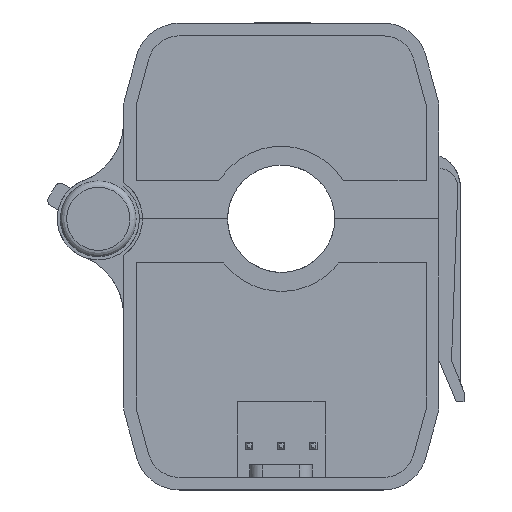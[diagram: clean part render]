
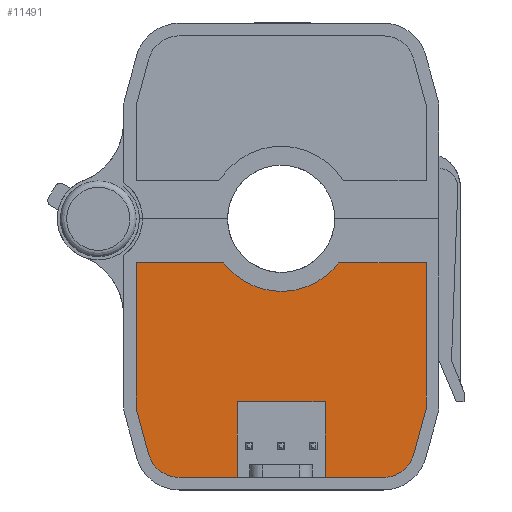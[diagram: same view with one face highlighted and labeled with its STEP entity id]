
A CAD part, front view. The second image highlights one B-rep face of the part: STEP entity #11491.
In plain terms, the highlighted free-form (B-spline) face has degree [1, 1] with [2, 2] control points.
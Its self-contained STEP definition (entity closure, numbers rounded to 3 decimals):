
#10874=CARTESIAN_POINT('',(-11.5,-11.,-15.));
#10875=VERTEX_POINT('',#10874);
#10881=CARTESIAN_POINT('',(-10.502,-11.,-18.658));
#10882=VERTEX_POINT('',#10881);
#10883=CARTESIAN_POINT('',(-10.502,-11.,-18.658));
#10884=CARTESIAN_POINT('',(-11.5,-11.,-15.));
#10885=B_SPLINE_CURVE_WITH_KNOTS('',1,(#10883,#10884),.POLYLINE_FORM.,.F.,.U.,(2,2),(0.335,1.),.UNSPECIFIED.);
#10886=EDGE_CURVE('',#10882,#10875,#10885,.T.);
#10964=CARTESIAN_POINT('',(-8.091,-11.,-20.5));
#10965=VERTEX_POINT('',#10964);
#10973=CARTESIAN_POINT('',(-10.502,-11.,-18.658));
#10974=CARTESIAN_POINT('',(-10.,-11.,-20.5));
#10975=CARTESIAN_POINT('',(-8.091,-11.,-20.5));
#10976=(BOUNDED_CURVE()B_SPLINE_CURVE(2,(#10973,#10974,#10975),.UNSPECIFIED.,.F.,.U.)B_SPLINE_CURVE_WITH_KNOTS((3,3),(0.,1.),.UNSPECIFIED.)CURVE()GEOMETRIC_REPRESENTATION_ITEM()RATIONAL_B_SPLINE_CURVE((1.,0.795,1.))REPRESENTATION_ITEM(''));
#10977=EDGE_CURVE('',#10882,#10965,#10976,.T.);
#11044=CARTESIAN_POINT('',(8.091,-11.,-20.5));
#11045=VERTEX_POINT('',#11044);
#11051=CARTESIAN_POINT('',(10.502,-11.,-18.658));
#11052=VERTEX_POINT('',#11051);
#11053=CARTESIAN_POINT('',(10.502,-11.,-18.658));
#11054=CARTESIAN_POINT('',(10.,-11.,-20.5));
#11055=CARTESIAN_POINT('',(8.091,-11.,-20.5));
#11056=(BOUNDED_CURVE()B_SPLINE_CURVE(2,(#11053,#11054,#11055),.UNSPECIFIED.,.F.,.U.)B_SPLINE_CURVE_WITH_KNOTS((3,3),(0.,1.),.UNSPECIFIED.)CURVE()GEOMETRIC_REPRESENTATION_ITEM()RATIONAL_B_SPLINE_CURVE((1.,0.795,1.))REPRESENTATION_ITEM(''));
#11057=EDGE_CURVE('',#11052,#11045,#11056,.T.);
#11134=CARTESIAN_POINT('',(11.5,-11.,-15.));
#11135=VERTEX_POINT('',#11134);
#11141=CARTESIAN_POINT('',(10.502,-11.,-18.658));
#11142=CARTESIAN_POINT('',(11.5,-11.,-15.));
#11143=B_SPLINE_CURVE_WITH_KNOTS('',1,(#11141,#11142),.POLYLINE_FORM.,.F.,.U.,(2,2),(0.335,1.),.UNSPECIFIED.);
#11144=EDGE_CURVE('',#11052,#11135,#11143,.T.);
#11190=CARTESIAN_POINT('',(-4.562,-11.,-3.5));
#11191=VERTEX_POINT('',#11190);
#11197=CARTESIAN_POINT('',(-11.5,-11.,-3.5));
#11198=VERTEX_POINT('',#11197);
#11199=CARTESIAN_POINT('',(-11.5,-11.,-3.5));
#11200=CARTESIAN_POINT('',(-4.562,-11.,-3.5));
#11201=B_SPLINE_CURVE_WITH_KNOTS('',1,(#11199,#11200),.POLYLINE_FORM.,.F.,.U.,(2,2),(0.,0.974),.UNSPECIFIED.);
#11202=EDGE_CURVE('',#11198,#11191,#11201,.T.);
#11252=CARTESIAN_POINT('',(11.5,-11.,-3.5));
#11253=VERTEX_POINT('',#11252);
#11259=CARTESIAN_POINT('',(4.562,-11.,-3.5));
#11260=VERTEX_POINT('',#11259);
#11261=CARTESIAN_POINT('',(4.562,-11.,-3.5));
#11262=CARTESIAN_POINT('',(11.5,-11.,-3.5));
#11263=B_SPLINE_CURVE_WITH_KNOTS('',1,(#11261,#11262),.POLYLINE_FORM.,.F.,.U.,(2,2),(0.019,1.),.UNSPECIFIED.);
#11264=EDGE_CURVE('',#11260,#11253,#11263,.T.);
#11322=CARTESIAN_POINT('',(-4.562,-11.,-3.5));
#11323=CARTESIAN_POINT('',(-2.836,-11.,-5.75));
#11324=CARTESIAN_POINT('',(0.,-11.,-5.75));
#11325=CARTESIAN_POINT('',(2.836,-11.,-5.75));
#11326=CARTESIAN_POINT('',(4.562,-11.,-3.5));
#11327=(BOUNDED_CURVE()B_SPLINE_CURVE(2,(#11322,#11323,#11324,#11325,#11326),.UNSPECIFIED.,.F.,.U.)B_SPLINE_CURVE_WITH_KNOTS((3,2,3),(0.,0.5,1.),.UNSPECIFIED.)CURVE()GEOMETRIC_REPRESENTATION_ITEM()RATIONAL_B_SPLINE_CURVE((0.857,0.83,1.,0.83,0.857))REPRESENTATION_ITEM(''));
#11328=EDGE_CURVE('',#11191,#11260,#11327,.T.);
#11392=CARTESIAN_POINT('',(11.5,-11.,-15.));
#11393=CARTESIAN_POINT('',(11.5,-11.,-3.5));
#11394=B_SPLINE_CURVE_WITH_KNOTS('',1,(#11392,#11393),.POLYLINE_FORM.,.F.,.U.,(2,2),(0.028,0.932),.UNSPECIFIED.);
#11395=EDGE_CURVE('',#11135,#11253,#11394,.T.);
#11433=CARTESIAN_POINT('',(-11.5,-11.,-3.5));
#11434=CARTESIAN_POINT('',(-11.5,-11.,-15.));
#11435=B_SPLINE_CURVE_WITH_KNOTS('',1,(#11433,#11434),.POLYLINE_FORM.,.F.,.U.,(2,2),(0.042,1.),.UNSPECIFIED.);
#11436=EDGE_CURVE('',#11198,#10875,#11435,.T.);
#11442=CARTESIAN_POINT('',(-12.19,-11.,-21.143));
#11443=CARTESIAN_POINT('',(-12.19,-11.,-2.858));
#11444=CARTESIAN_POINT('',(12.19,-11.,-21.143));
#11445=CARTESIAN_POINT('',(12.19,-11.,-2.858));
#11446=B_SPLINE_SURFACE_WITH_KNOTS('',1,1,((#11442,#11443),(#11444,#11445)),.PLANE_SURF.,.F.,.F.,.U.,(2,2),(2,2),(0.,1.),(0.,1.),.UNSPECIFIED.);
#11447=ORIENTED_EDGE('',*,*,#11264,.F.);
#11448=ORIENTED_EDGE('',*,*,#11328,.F.);
#11449=ORIENTED_EDGE('',*,*,#11202,.F.);
#11450=ORIENTED_EDGE('',*,*,#11436,.T.);
#11451=ORIENTED_EDGE('',*,*,#10886,.F.);
#11452=ORIENTED_EDGE('',*,*,#10977,.T.);
#11453=CARTESIAN_POINT('',(-3.48,-11.,-20.5));
#11454=VERTEX_POINT('',#11453);
#11455=CARTESIAN_POINT('',(-8.091,-11.,-20.5));
#11456=CARTESIAN_POINT('',(-3.48,-11.,-20.5));
#11457=B_SPLINE_CURVE_WITH_KNOTS('',1,(#11455,#11456),.POLYLINE_FORM.,.F.,.U.,(2,2),(0.176,0.361),.UNSPECIFIED.);
#11458=EDGE_CURVE('',#10965,#11454,#11457,.T.);
#11459=ORIENTED_EDGE('',*,*,#11458,.T.);
#11460=CARTESIAN_POINT('',(-3.48,-11.,-14.5));
#11461=VERTEX_POINT('',#11460);
#11462=CARTESIAN_POINT('',(-3.48,-11.,-14.5));
#11463=CARTESIAN_POINT('',(-3.48,-11.,-20.5));
#11464=B_SPLINE_CURVE_WITH_KNOTS('',1,(#11462,#11463),.POLYLINE_FORM.,.F.,.U.,(2,2),(0.215,0.416),.UNSPECIFIED.);
#11465=EDGE_CURVE('',#11461,#11454,#11464,.T.);
#11466=ORIENTED_EDGE('',*,*,#11465,.F.);
#11467=CARTESIAN_POINT('',(3.48,-11.,-14.5));
#11468=VERTEX_POINT('',#11467);
#11469=CARTESIAN_POINT('',(3.48,-11.,-14.5));
#11470=CARTESIAN_POINT('',(-3.48,-11.,-14.5));
#11471=B_SPLINE_CURVE_WITH_KNOTS('',1,(#11469,#11470),.POLYLINE_FORM.,.F.,.U.,(2,2),(0.385,0.615),.UNSPECIFIED.);
#11472=EDGE_CURVE('',#11468,#11461,#11471,.T.);
#11473=ORIENTED_EDGE('',*,*,#11472,.F.);
#11474=CARTESIAN_POINT('',(3.48,-11.,-20.5));
#11475=VERTEX_POINT('',#11474);
#11476=CARTESIAN_POINT('',(3.48,-11.,-20.5));
#11477=CARTESIAN_POINT('',(3.48,-11.,-14.5));
#11478=B_SPLINE_CURVE_WITH_KNOTS('',1,(#11476,#11477),.POLYLINE_FORM.,.F.,.U.,(2,2),(0.584,0.785),.UNSPECIFIED.);
#11479=EDGE_CURVE('',#11475,#11468,#11478,.T.);
#11480=ORIENTED_EDGE('',*,*,#11479,.F.);
#11481=CARTESIAN_POINT('',(3.48,-11.,-20.5));
#11482=CARTESIAN_POINT('',(8.091,-11.,-20.5));
#11483=B_SPLINE_CURVE_WITH_KNOTS('',1,(#11481,#11482),.POLYLINE_FORM.,.F.,.U.,(2,2),(0.639,0.824),.UNSPECIFIED.);
#11484=EDGE_CURVE('',#11475,#11045,#11483,.T.);
#11485=ORIENTED_EDGE('',*,*,#11484,.T.);
#11486=ORIENTED_EDGE('',*,*,#11057,.F.);
#11487=ORIENTED_EDGE('',*,*,#11144,.T.);
#11488=ORIENTED_EDGE('',*,*,#11395,.T.);
#11489=EDGE_LOOP('',(#11447,#11448,#11449,#11450,#11451,#11452,#11459,#11466,#11473,#11480,#11485,#11486,#11487,#11488));
#11490=FACE_OUTER_BOUND('',#11489,.T.);
#11491=ADVANCED_FACE('',(#11490),#11446,.T.);
